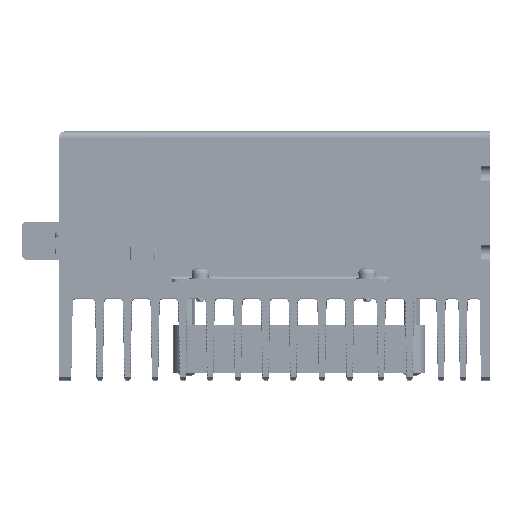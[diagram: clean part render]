
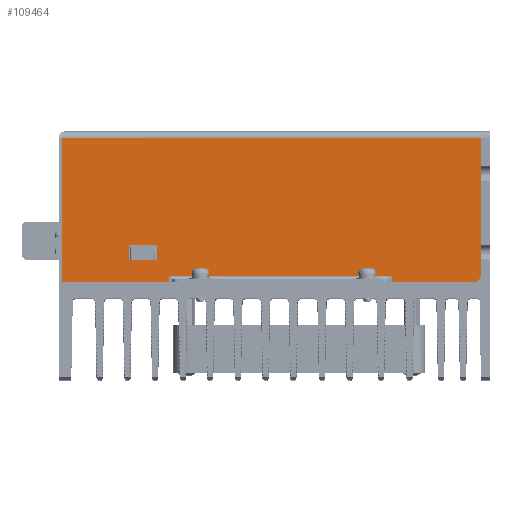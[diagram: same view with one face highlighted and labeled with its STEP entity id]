
A CAD part, top view. The second image highlights one B-rep face of the part: STEP entity #109464.
In plain terms, the highlighted planar face has unit normal (0, 0, 1).
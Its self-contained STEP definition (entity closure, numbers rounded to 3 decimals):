
#108250=CARTESIAN_POINT('Vertex',(45.206,77.,157.83)) ;
#108414=CARTESIAN_POINT('Vertex',(178.206,77.,157.83)) ;
#108883=CARTESIAN_POINT('Vertex',(79.206,32.5,157.83)) ;
#108890=CARTESIAN_POINT('Vertex',(79.706,33.,157.83)) ;
#108893=CARTESIAN_POINT('Axis2P3D Location',(79.706,32.5,157.83)) ;
#108914=CARTESIAN_POINT('Vertex',(79.206,31.,157.83)) ;
#108917=CARTESIAN_POINT('Line Origine',(79.206,31.75,157.83)) ;
#108933=CARTESIAN_POINT('Vertex',(75.516,38.1,157.83)) ;
#108936=CARTESIAN_POINT('Line Origine',(75.516,40.5,157.83)) ;
#108940=CARTESIAN_POINT('Vertex',(75.516,42.9,157.83)) ;
#108955=CARTESIAN_POINT('Line Origine',(71.066,42.9,157.83)) ;
#108959=CARTESIAN_POINT('Vertex',(66.616,42.9,157.83)) ;
#108974=CARTESIAN_POINT('Line Origine',(66.616,40.5,157.83)) ;
#108978=CARTESIAN_POINT('Vertex',(66.616,38.1,157.83)) ;
#108993=CARTESIAN_POINT('Line Origine',(71.066,38.1,157.83)) ;
#109362=CARTESIAN_POINT('Axis2P3D Location',(178.206,79.,157.83)) ;
#109367=CARTESIAN_POINT('Line Origine',(178.206,55.15,157.83)) ;
#109371=CARTESIAN_POINT('Vertex',(178.206,33.3,157.83)) ;
#109374=CARTESIAN_POINT('Line Origine',(111.706,77.,157.83)) ;
#109379=CARTESIAN_POINT('Line Origine',(45.206,54.,157.83)) ;
#109383=CARTESIAN_POINT('Vertex',(45.206,31.,157.83)) ;
#109386=CARTESIAN_POINT('Line Origine',(62.206,31.,157.83)) ;
#109391=CARTESIAN_POINT('Line Origine',(114.706,33.,157.83)) ;
#109395=CARTESIAN_POINT('Vertex',(149.706,33.,157.83)) ;
#109399=CARTESIAN_POINT('Control Point',(150.206,32.5,157.83)) ;
#109400=CARTESIAN_POINT('Control Point',(150.206,32.563,157.83)) ;
#109401=CARTESIAN_POINT('Control Point',(150.196,32.626,157.83)) ;
#109402=CARTESIAN_POINT('Control Point',(150.176,32.686,157.83)) ;
#109403=CARTESIAN_POINT('Control Point',(150.119,32.8,157.83)) ;
#109404=CARTESIAN_POINT('Control Point',(150.029,32.89,157.83)) ;
#109405=CARTESIAN_POINT('Control Point',(149.977,32.927,157.83)) ;
#109406=CARTESIAN_POINT('Control Point',(149.892,32.97,157.83)) ;
#109407=CARTESIAN_POINT('Control Point',(149.8,32.993,157.83)) ;
#109408=CARTESIAN_POINT('Control Point',(149.769,32.998,157.83)) ;
#109409=CARTESIAN_POINT('Control Point',(149.737,33.,157.83)) ;
#109410=CARTESIAN_POINT('Control Point',(149.706,33.,157.83)) ;
#109411=CARTESIAN_POINT('Vertex',(150.206,32.5,157.83)) ;
#109414=CARTESIAN_POINT('Line Origine',(150.206,31.75,157.83)) ;
#109418=CARTESIAN_POINT('Vertex',(150.206,31.,157.83)) ;
#109421=CARTESIAN_POINT('Line Origine',(163.056,31.,157.83)) ;
#109425=CARTESIAN_POINT('Vertex',(175.906,31.,157.83)) ;
#109429=CARTESIAN_POINT('Control Point',(175.906,31.,157.83)) ;
#109430=CARTESIAN_POINT('Control Point',(176.129,31.,157.83)) ;
#109431=CARTESIAN_POINT('Control Point',(176.352,31.027,157.83)) ;
#109432=CARTESIAN_POINT('Control Point',(176.57,31.081,157.83)) ;
#109433=CARTESIAN_POINT('Control Point',(176.99,31.241,157.83)) ;
#109434=CARTESIAN_POINT('Control Point',(177.359,31.496,157.83)) ;
#109435=CARTESIAN_POINT('Control Point',(177.528,31.646,157.83)) ;
#109436=CARTESIAN_POINT('Control Point',(177.824,31.983,157.83)) ;
#109437=CARTESIAN_POINT('Control Point',(178.032,32.381,157.83)) ;
#109438=CARTESIAN_POINT('Control Point',(178.111,32.592,157.83)) ;
#109439=CARTESIAN_POINT('Control Point',(178.177,32.863,157.83)) ;
#109440=CARTESIAN_POINT('Control Point',(178.201,33.138,157.83)) ;
#109441=CARTESIAN_POINT('Control Point',(178.205,33.192,157.83)) ;
#109442=CARTESIAN_POINT('Control Point',(178.206,33.246,157.83)) ;
#109443=CARTESIAN_POINT('Control Point',(178.206,33.3,157.83)) ;
#108894=DIRECTION('Axis2P3D Direction',(0.,0.,-1.)) ;
#108918=DIRECTION('Vector Direction',(0.,1.,0.)) ;
#108937=DIRECTION('Vector Direction',(0.,-1.,0.)) ;
#108956=DIRECTION('Vector Direction',(1.,0.,0.)) ;
#108975=DIRECTION('Vector Direction',(0.,1.,0.)) ;
#108994=DIRECTION('Vector Direction',(-1.,0.,0.)) ;
#109363=DIRECTION('Axis2P3D Direction',(0.,0.,-1.)) ;
#109364=DIRECTION('Axis2P3D XDirection',(-1.,0.,0.)) ;
#109368=DIRECTION('Vector Direction',(0.,-1.,0.)) ;
#109375=DIRECTION('Vector Direction',(1.,0.,0.)) ;
#109380=DIRECTION('Vector Direction',(0.,-1.,0.)) ;
#109387=DIRECTION('Vector Direction',(-1.,0.,0.)) ;
#109392=DIRECTION('Vector Direction',(1.,0.,0.)) ;
#109415=DIRECTION('Vector Direction',(0.,1.,0.)) ;
#109422=DIRECTION('Vector Direction',(-1.,0.,0.)) ;
#108895=AXIS2_PLACEMENT_3D('Circle Axis2P3D',#108893,#108894,$) ;
#109365=AXIS2_PLACEMENT_3D('Plane Axis2P3D',#109362,#109363,#109364) ;
#109446=ORIENTED_EDGE('',*,*,#109373,.F.) ;
#109447=ORIENTED_EDGE('',*,*,#109378,.F.) ;
#109448=ORIENTED_EDGE('',*,*,#109385,.T.) ;
#109449=ORIENTED_EDGE('',*,*,#109390,.F.) ;
#109450=ORIENTED_EDGE('',*,*,#108921,.T.) ;
#109451=ORIENTED_EDGE('',*,*,#108897,.T.) ;
#109452=ORIENTED_EDGE('',*,*,#109397,.T.) ;
#109453=ORIENTED_EDGE('',*,*,#109413,.F.) ;
#109454=ORIENTED_EDGE('',*,*,#109420,.F.) ;
#109455=ORIENTED_EDGE('',*,*,#109427,.F.) ;
#109456=ORIENTED_EDGE('',*,*,#109444,.T.) ;
#109459=ORIENTED_EDGE('',*,*,#108980,.T.) ;
#109460=ORIENTED_EDGE('',*,*,#108961,.T.) ;
#109461=ORIENTED_EDGE('',*,*,#108942,.T.) ;
#109462=ORIENTED_EDGE('',*,*,#108997,.T.) ;
#109463=FACE_BOUND('',#109458,.T.) ;
#108919=VECTOR('Line Direction',#108918,1.) ;
#108938=VECTOR('Line Direction',#108937,1.) ;
#108957=VECTOR('Line Direction',#108956,1.) ;
#108976=VECTOR('Line Direction',#108975,1.) ;
#108995=VECTOR('Line Direction',#108994,1.) ;
#109369=VECTOR('Line Direction',#109368,1.) ;
#109376=VECTOR('Line Direction',#109375,1.) ;
#109381=VECTOR('Line Direction',#109380,1.) ;
#109388=VECTOR('Line Direction',#109387,1.) ;
#109393=VECTOR('Line Direction',#109392,1.) ;
#109416=VECTOR('Line Direction',#109415,1.) ;
#109423=VECTOR('Line Direction',#109422,1.) ;
#109464=ADVANCED_FACE('MANIFOLD_SOLID_BREP #87436',(#109457,#109463),#109366,.F.) ;
#109398=B_SPLINE_CURVE_WITH_KNOTS('',5,(#109399,#109400,#109401,#109402,#109403,#109404,#109405,#109406,#109407,#109408,#109409,#109410),.UNSPECIFIED.,.F.,.U.,(6,3,3,6),(0.,0.444,0.889,1.11),.UNSPECIFIED.) ;
#109428=B_SPLINE_CURVE_WITH_KNOTS('',5,(#109429,#109430,#109431,#109432,#109433,#109434,#109435,#109436,#109437,#109438,#109439,#109440,#109441,#109442,#109443),.UNSPECIFIED.,.F.,.U.,(6,3,3,3,6),(0.,1.576,3.152,4.728,5.109),.UNSPECIFIED.) ;
#108896=CIRCLE('generated circle',#108895,0.5) ;
#108897=EDGE_CURVE('',#108884,#108891,#108896,.T.) ;
#108921=EDGE_CURVE('',#108915,#108884,#108920,.T.) ;
#108942=EDGE_CURVE('',#108941,#108934,#108939,.T.) ;
#108961=EDGE_CURVE('',#108960,#108941,#108958,.T.) ;
#108980=EDGE_CURVE('',#108979,#108960,#108977,.T.) ;
#108997=EDGE_CURVE('',#108934,#108979,#108996,.T.) ;
#109373=EDGE_CURVE('',#108415,#109372,#109370,.T.) ;
#109378=EDGE_CURVE('',#108251,#108415,#109377,.T.) ;
#109385=EDGE_CURVE('',#108251,#109384,#109382,.T.) ;
#109390=EDGE_CURVE('',#108915,#109384,#109389,.T.) ;
#109397=EDGE_CURVE('',#108891,#109396,#109394,.T.) ;
#109413=EDGE_CURVE('',#109412,#109396,#109398,.T.) ;
#109420=EDGE_CURVE('',#109419,#109412,#109417,.T.) ;
#109427=EDGE_CURVE('',#109426,#109419,#109424,.T.) ;
#109444=EDGE_CURVE('',#109426,#109372,#109428,.T.) ;
#109445=EDGE_LOOP('',(#109446,#109447,#109448,#109449,#109450,#109451,#109452,#109453,#109454,#109455,#109456)) ;
#109458=EDGE_LOOP('',(#109459,#109460,#109461,#109462)) ;
#109457=FACE_OUTER_BOUND('',#109445,.T.) ;
#108920=LINE('Line',#108917,#108919) ;
#108939=LINE('Line',#108936,#108938) ;
#108958=LINE('Line',#108955,#108957) ;
#108977=LINE('Line',#108974,#108976) ;
#108996=LINE('Line',#108993,#108995) ;
#109370=LINE('Line',#109367,#109369) ;
#109377=LINE('Line',#109374,#109376) ;
#109382=LINE('Line',#109379,#109381) ;
#109389=LINE('Line',#109386,#109388) ;
#109394=LINE('Line',#109391,#109393) ;
#109417=LINE('Line',#109414,#109416) ;
#109424=LINE('Line',#109421,#109423) ;
#109366=PLANE('',#109365) ;
#108251=VERTEX_POINT('',#108250) ;
#108415=VERTEX_POINT('',#108414) ;
#108884=VERTEX_POINT('',#108883) ;
#108891=VERTEX_POINT('',#108890) ;
#108915=VERTEX_POINT('',#108914) ;
#108934=VERTEX_POINT('',#108933) ;
#108941=VERTEX_POINT('',#108940) ;
#108960=VERTEX_POINT('',#108959) ;
#108979=VERTEX_POINT('',#108978) ;
#109372=VERTEX_POINT('',#109371) ;
#109384=VERTEX_POINT('',#109383) ;
#109396=VERTEX_POINT('',#109395) ;
#109412=VERTEX_POINT('',#109411) ;
#109419=VERTEX_POINT('',#109418) ;
#109426=VERTEX_POINT('',#109425) ;
